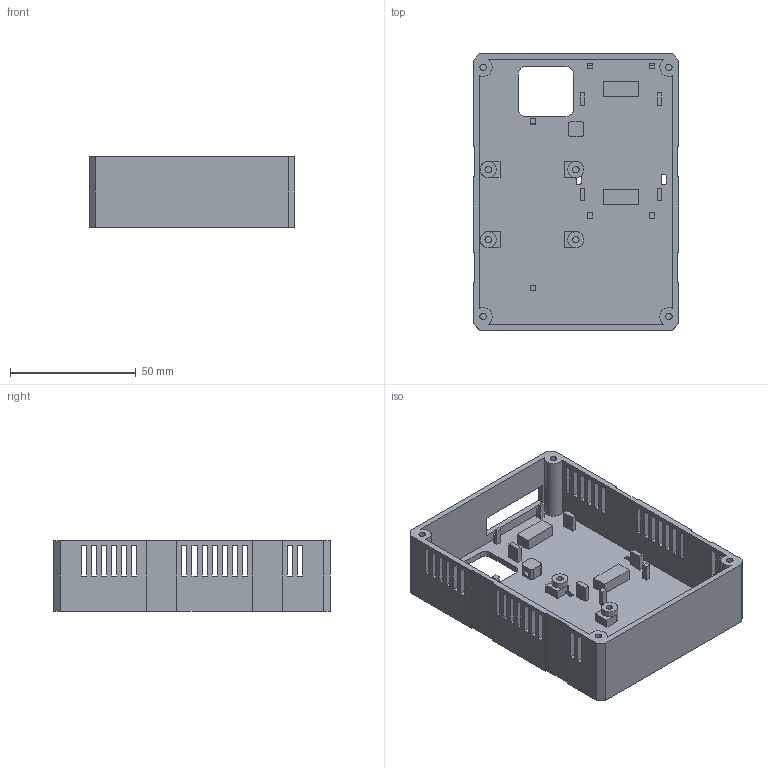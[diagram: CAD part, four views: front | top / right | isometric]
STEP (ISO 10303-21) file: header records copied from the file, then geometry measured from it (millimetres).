
FILE_DESCRIPTION(('Open CASCADE Model'),'2;1');
FILE_NAME('Open CASCADE Shape Model','2026-09-07T22:52:31',('Author'),( 'Open CASCADE'),'Open CASCADE STEP processor 7.9','build123d', 'Unknown');
FILE_SCHEMA(('AUTOMOTIVE_DESIGN { 1 0 10303 214 1 1 1 1 }'));
Length unit declared in the file: millimetre
Products named in the file (1): COMPOUND
Bounding box: 82 x 110 x 28 mm (x, y, z)
Volume: 45013 mm3; surface area: 39914.2 mm2
Topology: 1 solids, 1 shells, 321 faces, 871 edges, 578 vertices
Faces by surface type: plane 289, cylinder 32
Full cylindrical faces by diameter (mm): 2.6 x8, 6.4 x4
Entity records: 20849 total; most frequent: CARTESIAN_POINT 4417, DIRECTION 2612, LINE 1751, VECTOR 1751, ORIENTED_EDGE 1742, PCURVE 1742, DEFINITIONAL_REPRESENTATION 1742, EDGE_CURVE 871
